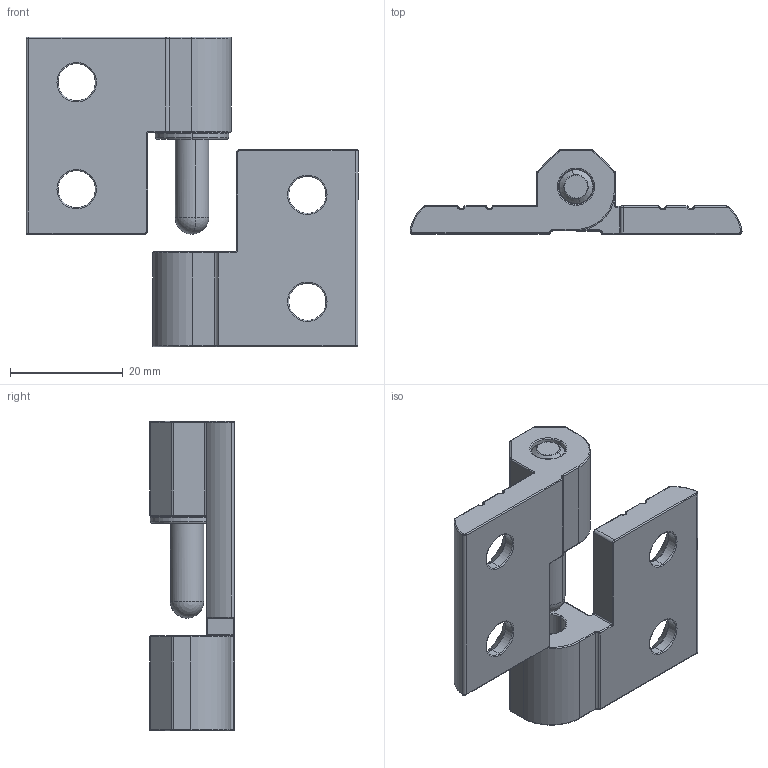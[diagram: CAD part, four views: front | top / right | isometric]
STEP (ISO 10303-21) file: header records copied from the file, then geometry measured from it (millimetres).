
FILE_DESCRIPTION (( 'STEP AP214' ), '1' );
FILE_NAME ('HGA-5935-4119-L.STEP', '2020-03-23T07:14:23', ( '' ), ( '' ), 'SwSTEP 2.0', 'SolidWorks 2016', '' );
FILE_SCHEMA (( 'AUTOMOTIVE_DESIGN' ));
Length unit declared in the file: millimetre
Products named in the file (4): 脣誏; 縡?ﾆｬ; HGA-5935-4119-L; 墊片
Assembly tree (4 placements, depth 2):
  HGA-5935-4119-L
    縡?ﾆｬ  x2
    脣誏
    墊片
Bounding box: 59 x 15 x 55 mm (x, y, z)
Volume: 12260.1 mm3; surface area: 7735.6 mm2
Topology: 4 solids, 4 shells, 612 faces, 1493 edges, 831 vertices
Faces by surface type: cylinder 291, torus 118, plane 99, sphere 58, bspline 36, cone 10
Entity records: 13637 total; most frequent: CARTESIAN_POINT 3467, DIRECTION 2337, ORIENTED_EDGE 2046, AXIS2_PLACEMENT_3D 1033, EDGE_CURVE 1023, CIRCLE 622, VERTEX_POINT 605, EDGE_LOOP 428
